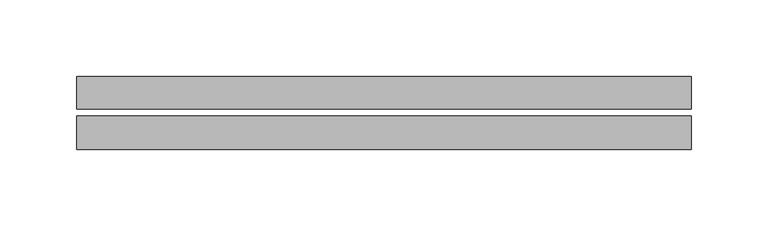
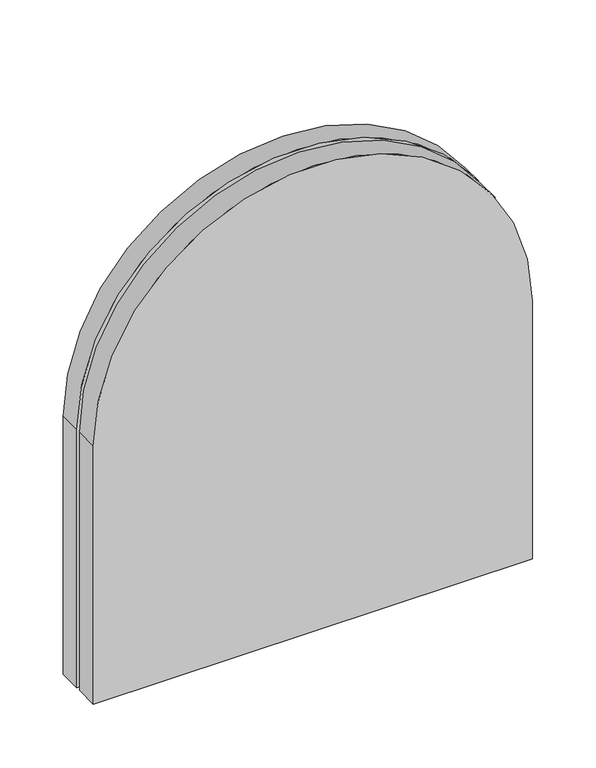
"""IFC4 building model written with IfcOpenShell, lengths in millimetres: flow terminal geometry, Deca_Shared_Assento_P.280 : Bacia Sanitária - Assento."""

from ifc_helpers import new_model, si_unit, point, frame, frame_2d, origin, place, context, project, spatial, polyline, circle_curve, trimmed, segment, composite_curve, outline, extrude, source, transform, mapped, element, save


def flow_terminal_5e795d7a(model_context):
    return source(origin(), model_context, "Body", "SweptSolid", [
        extrude(outline(composite_curve([segment(trimmed(circle_curve(frame_2d((248.4375, 5.7583035)), 200.0004357), [point((248.4375, 205.7587392))], [point((248.4375, -194.2421321))], False, "CARTESIAN"), True, "CONTINUOUS"), segment(polyline([(248.4375, -194.2421321), (0.0, -194.2421321), (0.0, 205.7587392), (248.4375, 205.7587392)]), True, "CONTINUOUS")], self_intersect=False)), frame((0.0, -53.375, 0.0), z_axis=(0.0, 1.0, 0.0), x_axis=(0.0, 0.0, 1.0)), (0.0, 0.0, 1.0), 21.8401554),
        extrude(outline(composite_curve([segment(trimmed(circle_curve(frame_2d((248.4375, 5.7583035)), 200.0004357), [point((248.4375, 205.7587392))], [point((248.4375, -194.2421321))], False, "CARTESIAN"), True, "CONTINUOUS"), segment(polyline([(248.4375, -194.2421321), (0.0, -194.2421321), (0.0, 205.7587392), (248.4375, 205.7587392)]), True, "CONTINUOUS")], self_intersect=False)), frame((0.0, -27.2485917, 0.0), z_axis=(0.0, 1.0, 0.0), x_axis=(0.0, 0.0, 1.0)), (0.0, 0.0, 1.0), 21.2485917),
    ])


if __name__ == "__main__":
    model = new_model("IFC4")
    model_context = context("Model", 3, world=origin())
    ifc_project = project(units=[si_unit("LENGTHUNIT", "METRE", prefix="MILLI")], contexts=[model_context])
    site = spatial("IfcSite", under=ifc_project)
    building = spatial("IfcBuilding", under=site)
    placement = place(None, origin())
    flow_terminal_shape = flow_terminal_5e795d7a(model_context)
    element("IfcFlowTerminal", 1, ObjectType="Deca_Shared_Assento_P.280 : Bacia Sanitária - Assento", at=placement, inside=building, context=model_context, shape_type="MappedRepresentation", body=[
        mapped(flow_terminal_shape, transform((0.0, 0.0, 0.0), x_axis=(1.0, 0.0, 0.0), y_axis=(0.0, 1.0, 0.0), z_axis=(0.0, 0.0, 1.0))),
    ])
    save(model, "model.ifc")
